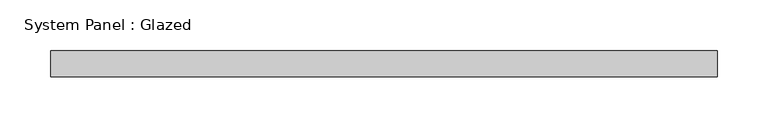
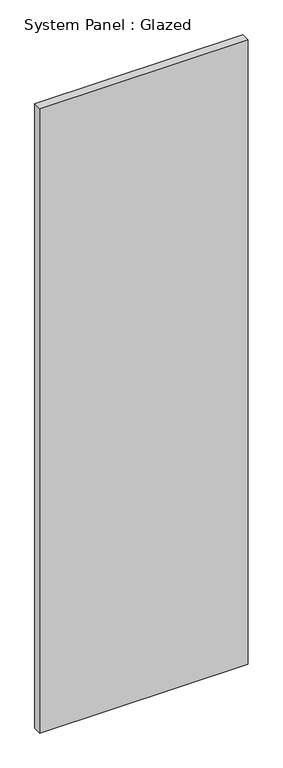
"""IFC4 building model written with IfcOpenShell, lengths in millimetres: plate geometry, System Panel : Glazed."""

from ifc_helpers import new_model, si_unit, origin, origin_with_axes, place, context, project, spatial, polyline, outline, extrude, source, transform, mapped, element, save


def system_panel_glazed_698d3100(model_context):
    return source(origin(), model_context, "Body", "SweptSolid", [
        extrude(outline(polyline([(327.3750001, -44.45), (-327.3750001, -44.45), (-327.3750001, -19.05), (327.3750001, -19.05), (327.3750001, -44.45)])), origin_with_axes(), (0.0, 0.0, 1.0), 2073.0),
    ])


if __name__ == "__main__":
    model = new_model("IFC4")
    model_context = context("Model", 3, world=origin())
    ifc_project = project(units=[si_unit("LENGTHUNIT", "METRE", prefix="MILLI")], contexts=[model_context])
    site = spatial("IfcSite", under=ifc_project)
    building = spatial("IfcBuilding", under=site)
    placement = place(None, origin())
    system_panel_glazed_shape = system_panel_glazed_698d3100(model_context)
    element("IfcPlate", 1, ObjectType="System Panel : Glazed", at=placement, inside=building, context=model_context, shape_type="MappedRepresentation", body=[
        mapped(system_panel_glazed_shape, transform((0.0, 0.0, 0.0), x_axis=(1.0, 0.0, 0.0), y_axis=(0.0, 1.0, 0.0), z_axis=(0.0, 0.0, 1.0))),
    ])
    save(model, "model.ifc")
